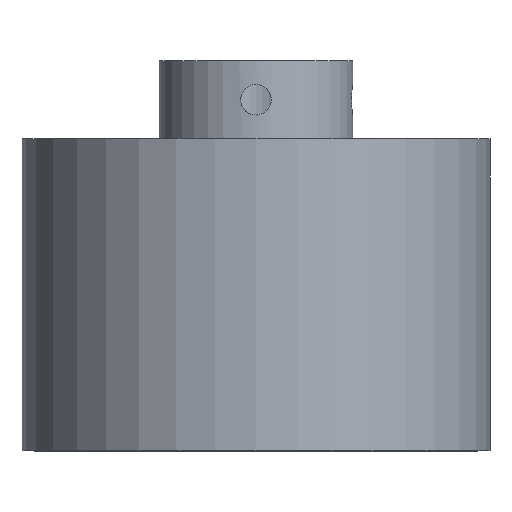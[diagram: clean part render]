
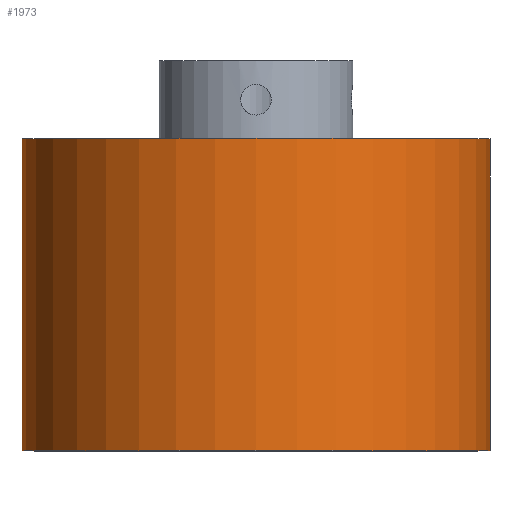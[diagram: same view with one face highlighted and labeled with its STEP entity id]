
A CAD part, top view. The second image highlights one B-rep face of the part: STEP entity #1973.
In plain terms, the highlighted cylindrical face has radius 38.1 mm (diameter 76.2 mm), a full revolution.
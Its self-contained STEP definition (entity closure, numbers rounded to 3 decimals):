
#269=FACE_OUTER_BOUND('',#378,.T.);
#378=EDGE_LOOP('',(#1703,#1704,#1705,#1706));
#548=LINE('',#3309,#694);
#694=VECTOR('',#2765,38.1);
#701=CIRCLE('',#2006,38.1);
#814=CIRCLE('',#2204,38.1);
#821=VERTEX_POINT('',#2800);
#990=VERTEX_POINT('',#3307);
#1006=EDGE_CURVE('',#821,#821,#701,.T.);
#1259=EDGE_CURVE('',#990,#990,#814,.T.);
#1260=EDGE_CURVE('',#990,#821,#548,.T.);
#1703=ORIENTED_EDGE('',*,*,#1259,.F.);
#1704=ORIENTED_EDGE('',*,*,#1260,.T.);
#1705=ORIENTED_EDGE('',*,*,#1006,.F.);
#1706=ORIENTED_EDGE('',*,*,#1260,.F.);
#1882=CYLINDRICAL_SURFACE('',#2203,38.1);
#1973=ADVANCED_FACE('',(#269),#1882,.T.);
#2006=AXIS2_PLACEMENT_3D('',#2801,#2227,#2228);
#2203=AXIS2_PLACEMENT_3D('',#3306,#2761,#2762);
#2204=AXIS2_PLACEMENT_3D('',#3308,#2763,#2764);
#2227=DIRECTION('center_axis',(0.,-1.,0.));
#2228=DIRECTION('ref_axis',(-1.,0.,0.));
#2761=DIRECTION('center_axis',(0.,1.,0.));
#2762=DIRECTION('ref_axis',(-1.,0.,0.));
#2763=DIRECTION('center_axis',(0.,1.,0.));
#2764=DIRECTION('ref_axis',(-1.,0.,0.));
#2765=DIRECTION('',(0.,-1.,0.));
#2800=CARTESIAN_POINT('',(38.1,-25.4,0.));
#2801=CARTESIAN_POINT('Origin',(0.,-25.4,0.));
#3306=CARTESIAN_POINT('Origin',(0.,0.,0.));
#3307=CARTESIAN_POINT('',(38.1,25.4,0.));
#3308=CARTESIAN_POINT('Origin',(0.,25.4,0.));
#3309=CARTESIAN_POINT('',(38.1,0.,0.));
